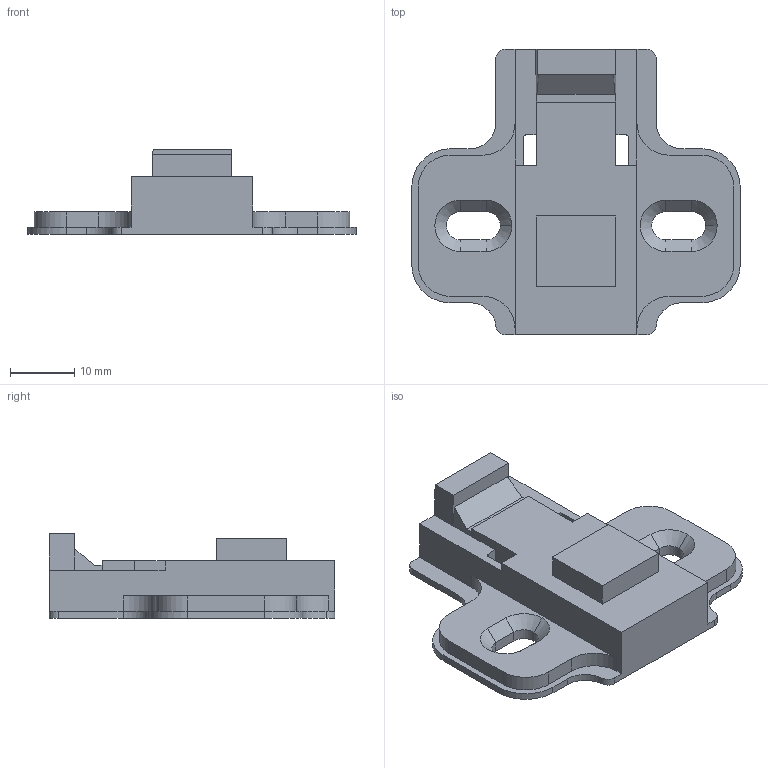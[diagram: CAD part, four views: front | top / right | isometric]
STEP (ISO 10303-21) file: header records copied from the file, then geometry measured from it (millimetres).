
FILE_DESCRIPTION (( 'STEP AP203' ), '1' );
FILE_NAME ('96H40AQ(DTC 3D).STEP', '2021-04-05T05:10:19', ( '' ), ( '' ), 'SwSTEP 2.0', 'SolidWorks 2018', '' );
FILE_SCHEMA (( 'CONFIG_CONTROL_DESIGN' ));
Length unit declared in the file: millimetre
Products named in the file (1): 96H40AQ(DTC 3D)
Bounding box: 51.2 x 44.5 x 13.2 mm (x, y, z)
Volume: 10221.1 mm3; surface area: 5185.4 mm2
Topology: 1 solids, 1 shells, 92 faces, 260 edges, 169 vertices
Faces by surface type: plane 58, cylinder 28, cone 6
Entity records: 3055 total; most frequent: CARTESIAN_POINT 522, ORIENTED_EDGE 520, DIRECTION 508, EDGE_CURVE 260, VECTOR 198, LINE 198, VERTEX_POINT 169, AXIS2_PLACEMENT_3D 155
